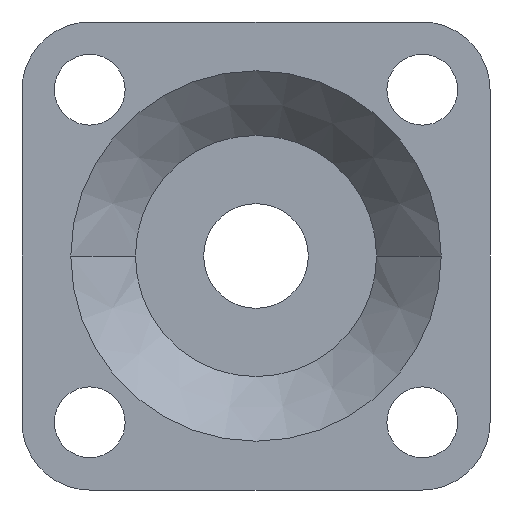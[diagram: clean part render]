
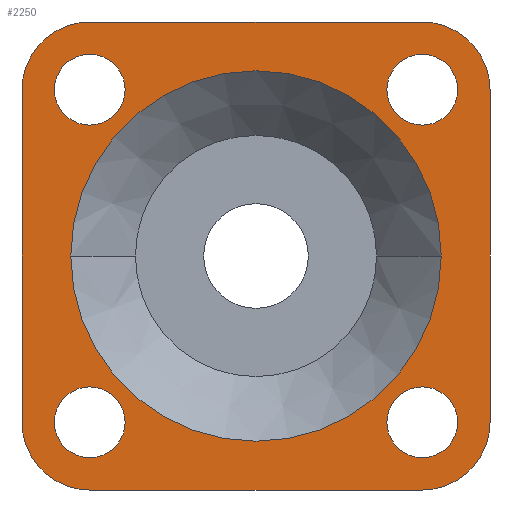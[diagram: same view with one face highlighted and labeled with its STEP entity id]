
A CAD part, left-side view. The second image highlights one B-rep face of the part: STEP entity #2250.
In plain terms, the highlighted planar face has unit normal (-1, 0, 0).
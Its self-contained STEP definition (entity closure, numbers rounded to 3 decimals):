
#120=CARTESIAN_POINT('',(-17.,30.079,0.));
#130=VERTEX_POINT('',#120);
#160=CARTESIAN_POINT('',(-17.,0.,0.));
#170=DIRECTION('',(-1.,0.,0.));
#180=DIRECTION('',(0.,1.,0.));
#190=AXIS2_PLACEMENT_3D('',#160,#170,#180);
#200=CIRCLE('',#190,30.079);
#210=CARTESIAN_POINT('',(-17.,-30.079,0.));
#220=VERTEX_POINT('',#210);
#230=EDGE_CURVE('',#220,#130,#200,.T.);
#850=CARTESIAN_POINT('',(-17.,53.039,0.));
#860=DIRECTION('',(-1.,0.,0.));
#870=DIRECTION('',(0.,1.,0.));
#880=AXIS2_PLACEMENT_3D('',#850,#860,#870);
#890=PLANE('',#880);
#900=CARTESIAN_POINT('',(-17.,27.,27.));
#910=DIRECTION('',(-1.,0.,0.));
#920=DIRECTION('',(0.,1.,0.));
#930=AXIS2_PLACEMENT_3D('',#900,#910,#920);
#940=CIRCLE('',#930,11.);
#950=CARTESIAN_POINT('',(-17.,27.,38.));
#960=VERTEX_POINT('VERTEX13511',#950);
#970=CARTESIAN_POINT('',(-17.,38.,27.));
#980=VERTEX_POINT('VERTEX13504',#970);
#990=EDGE_CURVE('EDGE20511',#960,#980,#940,.T.);
#1000=ORIENTED_EDGE('',*,*,#990,.T.);
#1010=CARTESIAN_POINT('',(-17.,13.02,38.));
#1020=DIRECTION('',(0.,1.,0.));
#1030=VECTOR('',#1020,1.);
#1040=LINE('',#1010,#1030);
#1050=CARTESIAN_POINT('',(-17.,-27.,38.));
#1060=VERTEX_POINT('VERTEX13510',#1050);
#1070=EDGE_CURVE('EDGE20510',#1060,#960,#1040,.T.);
#1080=ORIENTED_EDGE('',*,*,#1070,.T.);
#1090=CARTESIAN_POINT('',(-17.,-27.,27.));
#1100=DIRECTION('',(-1.,0.,0.));
#1110=DIRECTION('',(0.,0.,1.));
#1120=AXIS2_PLACEMENT_3D('',#1090,#1100,#1110);
#1130=CIRCLE('',#1120,11.);
#1140=CARTESIAN_POINT('',(-17.,-38.,27.));
#1150=VERTEX_POINT('VERTEX13509',#1140);
#1160=EDGE_CURVE('EDGE20509',#1150,#1060,#1130,.T.);
#1170=ORIENTED_EDGE('',*,*,#1160,.T.);
#1180=CARTESIAN_POINT('',(-17.,-38.,-13.5));
#1190=DIRECTION('',(0.,0.,1.));
#1200=VECTOR('',#1190,1.);
#1210=LINE('',#1180,#1200);
#1220=CARTESIAN_POINT('',(-17.,-38.,-27.));
#1230=VERTEX_POINT('VERTEX13508',#1220);
#1240=EDGE_CURVE('EDGE20508',#1230,#1150,#1210,.T.);
#1250=ORIENTED_EDGE('',*,*,#1240,.T.);
#1260=CARTESIAN_POINT('',(-17.,-27.,-27.));
#1270=DIRECTION('',(-1.,0.,0.));
#1280=DIRECTION('',(0.,-1.,0.));
#1290=AXIS2_PLACEMENT_3D('',#1260,#1270,#1280);
#1300=CIRCLE('',#1290,11.);
#1310=CARTESIAN_POINT('',(-17.,-27.,-38.));
#1320=VERTEX_POINT('VERTEX13507',#1310);
#1330=EDGE_CURVE('EDGE20507',#1320,#1230,#1300,.T.);
#1340=ORIENTED_EDGE('',*,*,#1330,.T.);
#1350=CARTESIAN_POINT('',(-17.,40.02,-38.));
#1360=DIRECTION('',(0.,-1.,0.));
#1370=VECTOR('',#1360,1.);
#1380=LINE('',#1350,#1370);
#1390=CARTESIAN_POINT('',(-17.,27.,-38.));
#1400=VERTEX_POINT('VERTEX13506',#1390);
#1410=EDGE_CURVE('EDGE20506',#1400,#1320,#1380,.T.);
#1420=ORIENTED_EDGE('',*,*,#1410,.T.);
#1430=CARTESIAN_POINT('',(-17.,27.,-27.));
#1440=DIRECTION('',(-1.,0.,0.));
#1450=DIRECTION('',(0.,0.,-1.));
#1460=AXIS2_PLACEMENT_3D('',#1430,#1440,#1450);
#1470=CIRCLE('',#1460,11.);
#1480=CARTESIAN_POINT('',(-17.,38.,-27.));
#1490=VERTEX_POINT('VERTEX13505',#1480);
#1500=EDGE_CURVE('EDGE20505',#1490,#1400,#1470,.T.);
#1510=ORIENTED_EDGE('',*,*,#1500,.T.);
#1520=CARTESIAN_POINT('',(-17.,38.,13.5));
#1530=DIRECTION('',(0.,0.,-1.));
#1540=VECTOR('',#1530,1.);
#1550=LINE('',#1520,#1540);
#1560=EDGE_CURVE('EDGE20504',#980,#1490,#1550,.T.);
#1570=ORIENTED_EDGE('',*,*,#1560,.T.);
#1580=EDGE_LOOP('',(#1570,#1510,#1420,#1340,#1250,#1170,#1080,#1000));
#1590=FACE_OUTER_BOUND('',#1580,.T.);
#1600=CARTESIAN_POINT('',(-17.,-27.,-27.));
#1610=DIRECTION('',(1.,0.,0.));
#1620=DIRECTION('',(0.,0.,-1.));
#1630=AXIS2_PLACEMENT_3D('',#1600,#1610,#1620);
#1640=CIRCLE('',#1630,5.75);
#1650=CARTESIAN_POINT('',(-17.,-27.,-32.75));
#1660=VERTEX_POINT('VERTEX13497',#1650);
#1670=CARTESIAN_POINT('',(-17.,-27.,-21.25));
#1680=VERTEX_POINT('',#1670);
#1690=EDGE_CURVE('',#1660,#1680,#1640,.T.);
#1700=ORIENTED_EDGE('',*,*,#1690,.T.);
#1710=EDGE_CURVE('EDGE20497',#1680,#1660,#1640,.T.);
#1720=ORIENTED_EDGE('',*,*,#1710,.T.);
#1730=EDGE_LOOP('',(#1720,#1700));
#1740=FACE_BOUND('',#1730,.T.);
#1750=EDGE_CURVE('',#130,#220,#200,.T.);
#1760=ORIENTED_EDGE('',*,*,#1750,.F.);
#1770=ORIENTED_EDGE('',*,*,#230,.F.);
#1780=EDGE_LOOP('',(#1770,#1760));
#1790=FACE_BOUND('',#1780,.T.);
#1800=CARTESIAN_POINT('',(-17.,27.,-27.));
#1810=DIRECTION('',(1.,0.,0.));
#1820=DIRECTION('',(0.,0.,-1.));
#1830=AXIS2_PLACEMENT_3D('',#1800,#1810,#1820);
#1840=CIRCLE('',#1830,5.75);
#1850=CARTESIAN_POINT('',(-17.,27.,-32.75));
#1860=VERTEX_POINT('VERTEX13503',#1850);
#1870=CARTESIAN_POINT('',(-17.,27.,-21.25));
#1880=VERTEX_POINT('',#1870);
#1890=EDGE_CURVE('',#1860,#1880,#1840,.T.);
#1900=ORIENTED_EDGE('',*,*,#1890,.T.);
#1910=EDGE_CURVE('EDGE20503',#1880,#1860,#1840,.T.);
#1920=ORIENTED_EDGE('',*,*,#1910,.T.);
#1930=EDGE_LOOP('',(#1920,#1900));
#1940=FACE_BOUND('',#1930,.T.);
#1950=CARTESIAN_POINT('',(-17.,27.,27.));
#1960=DIRECTION('',(1.,0.,0.));
#1970=DIRECTION('',(0.,0.,-1.));
#1980=AXIS2_PLACEMENT_3D('',#1950,#1960,#1970);
#1990=CIRCLE('',#1980,5.75);
#2000=CARTESIAN_POINT('',(-17.,27.,32.75));
#2010=VERTEX_POINT('VERTEX13500',#2000);
#2020=CARTESIAN_POINT('',(-17.,27.,21.25));
#2030=VERTEX_POINT('',#2020);
#2040=EDGE_CURVE('',#2010,#2030,#1990,.T.);
#2050=ORIENTED_EDGE('',*,*,#2040,.T.);
#2060=EDGE_CURVE('EDGE20501',#2030,#2010,#1990,.T.);
#2070=ORIENTED_EDGE('',*,*,#2060,.T.);
#2080=EDGE_LOOP('',(#2070,#2050));
#2090=FACE_BOUND('',#2080,.T.);
#2100=CARTESIAN_POINT('',(-17.,-27.,27.));
#2110=DIRECTION('',(1.,0.,0.));
#2120=DIRECTION('',(0.,0.,-1.));
#2130=AXIS2_PLACEMENT_3D('',#2100,#2110,#2120);
#2140=CIRCLE('',#2130,5.75);
#2150=CARTESIAN_POINT('',(-17.,-27.,32.75));
#2160=VERTEX_POINT('VERTEX13498',#2150);
#2170=CARTESIAN_POINT('',(-17.,-27.,21.25));
#2180=VERTEX_POINT('',#2170);
#2190=EDGE_CURVE('',#2160,#2180,#2140,.T.);
#2200=ORIENTED_EDGE('',*,*,#2190,.T.);
#2210=EDGE_CURVE('EDGE20499',#2180,#2160,#2140,.T.);
#2220=ORIENTED_EDGE('',*,*,#2210,.T.);
#2230=EDGE_LOOP('',(#2220,#2200));
#2240=FACE_BOUND('',#2230,.T.);
#2250=ADVANCED_FACE('',(#1590,#1740,#1790,#1940,#2090,#2240),#890,.T.);
